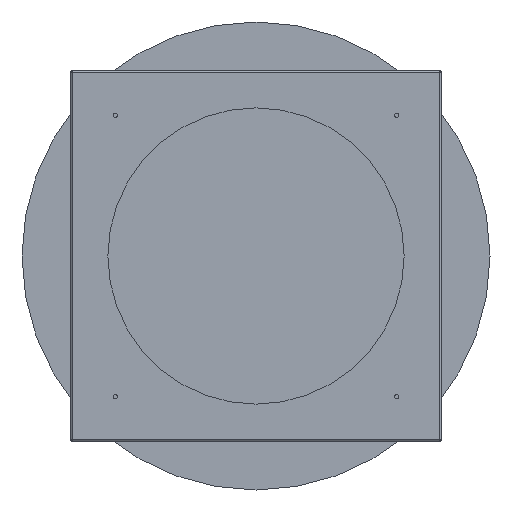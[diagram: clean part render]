
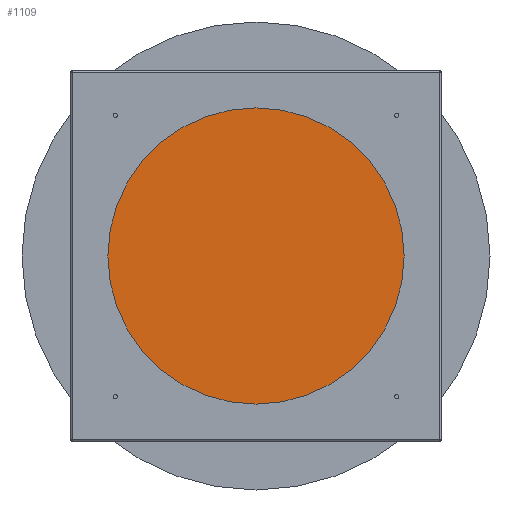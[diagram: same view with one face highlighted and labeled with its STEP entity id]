
A CAD part, front view. The second image highlights one B-rep face of the part: STEP entity #1109.
In plain terms, the highlighted planar face has unit normal (0, -1, 0).
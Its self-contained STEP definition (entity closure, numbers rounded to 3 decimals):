
#1109=ADVANCED_FACE('',(#3503),#3504,.T.);
#3503=FACE_OUTER_BOUND('',#7194,.T.);
#3504=PLANE('',#7195);
#7194=EDGE_LOOP('',(#11719,#11720));
#7195=AXIS2_PLACEMENT_3D('',#11721,#11722,#11723);
#11719=ORIENTED_EDGE('',*,*,#22218,.F.);
#11720=ORIENTED_EDGE('',*,*,#22080,.F.);
#11721=CARTESIAN_POINT('',(395.0,178.0,0.0));
#11722=DIRECTION('',(0.,-1.0,-0.0));
#11723=DIRECTION('',(-1.0,0.,0.0));
#22080=EDGE_CURVE('',#27226,#27229,#27230,.T.);
#22218=EDGE_CURVE('',#27229,#27226,#27498,.T.);
#27226=VERTEX_POINT('',#33549);
#27229=VERTEX_POINT('',#33553);
#27230=CIRCLE('',#33554,560.0);
#27498=CIRCLE('',#33833,560.0);
#33549=CARTESIAN_POINT('',(560.0,178.0,0.));
#33553=CARTESIAN_POINT('',(-560.0,178.0,0.));
#33554=AXIS2_PLACEMENT_3D('',#41784,#41785,#41786);
#33833=AXIS2_PLACEMENT_3D('',#42161,#42162,#42163);
#41784=CARTESIAN_POINT('',(0.0,178.0,0.0));
#41785=DIRECTION('',(0.,1.0,0.0));
#41786=DIRECTION('',(1.0,0.,0.0));
#42161=CARTESIAN_POINT('',(0.0,178.0,0.0));
#42162=DIRECTION('',(0.,1.0,0.0));
#42163=DIRECTION('',(1.0,0.,0.0));
